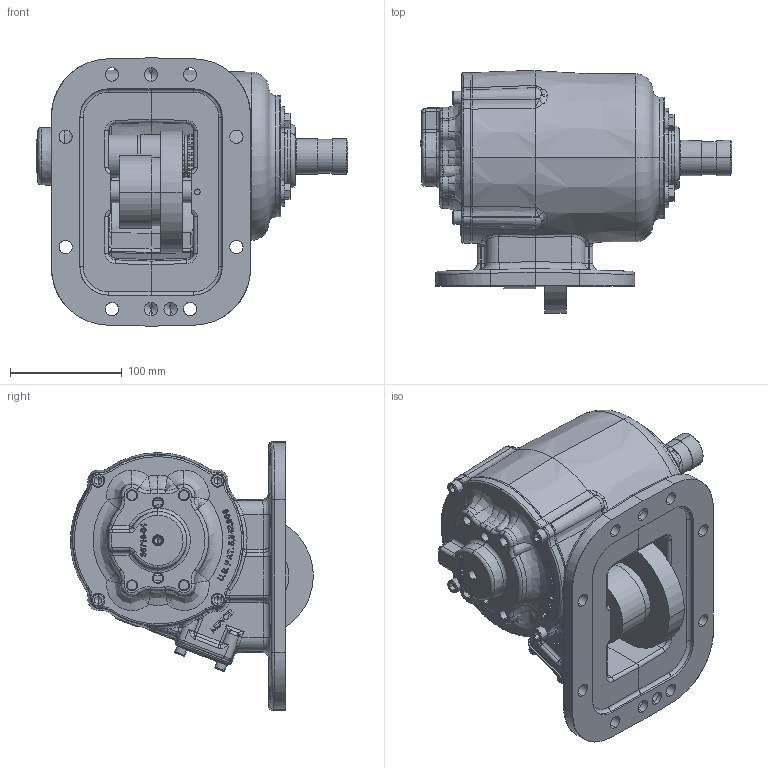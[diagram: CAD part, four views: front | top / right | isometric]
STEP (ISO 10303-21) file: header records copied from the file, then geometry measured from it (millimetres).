
FILE_DESCRIPTION (( 'STEP AP203' ), '1' );
FILE_NAME ('CS8S-XXXXX-X4BX.STEP', '2012-06-12T14:30:47', ( '' ), ( '' ), 'SwSTEP 2.0', 'SolidWorks 2012', '' );
FILE_SCHEMA (( 'CONFIG_CONTROL_DESIGN' ));
Products named in the file (5): CS8S-XXXXX-X4BX; 06t36892; 19T33233; 15T34576; CS8S-XXXXX-X4XX
Assembly tree (7 placements, depth 2):
  CS8S-XXXXX-X4BX
    CS8S-XXXXX-X4XX
    15T34576
    19T33233  x4
    06t36892
Bounding box: 278.52 x 216.75 x 239.61 mm (x, y, z)
Volume: 1924630.3 mm3; surface area: 447748.3 mm2
Topology: 3 solids, 23 shells, 2349 faces, 5949 edges, 3691 vertices
Faces by surface type: bspline 785, plane 655, cylinder 542, cone 285, torus 74, sphere 8
Entity records: 134187 total; most frequent: CARTESIAN_POINT 86114, ORIENTED_EDGE 11188, DIRECTION 7863, EDGE_CURVE 5595, VERTEX_POINT 3529, AXIS2_PLACEMENT_3D 2906, EDGE_LOOP 2425, FACE_OUTER_BOUND 2220
